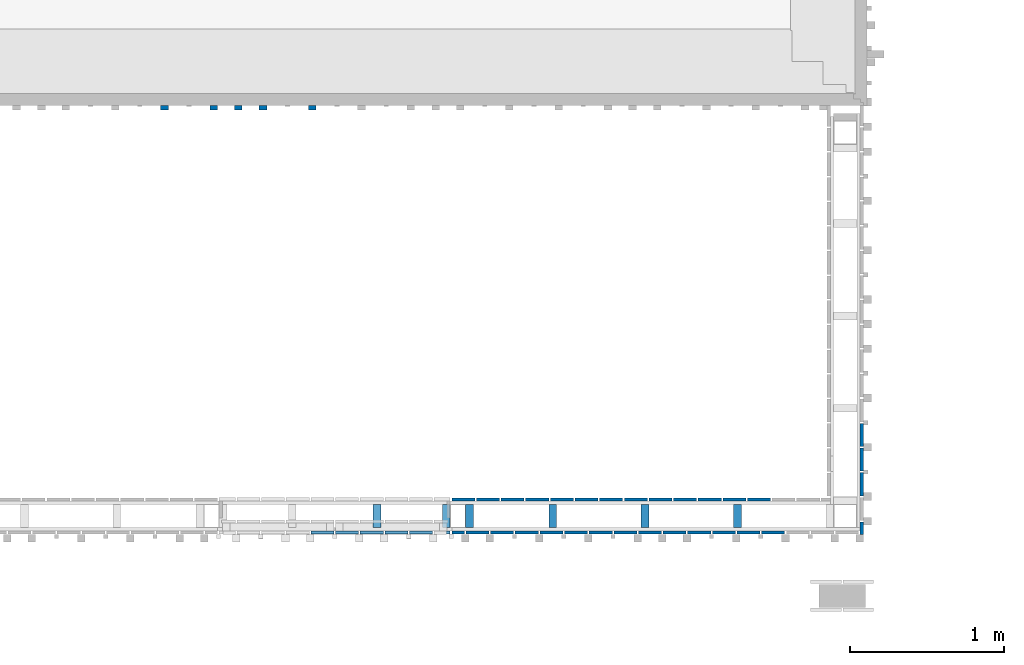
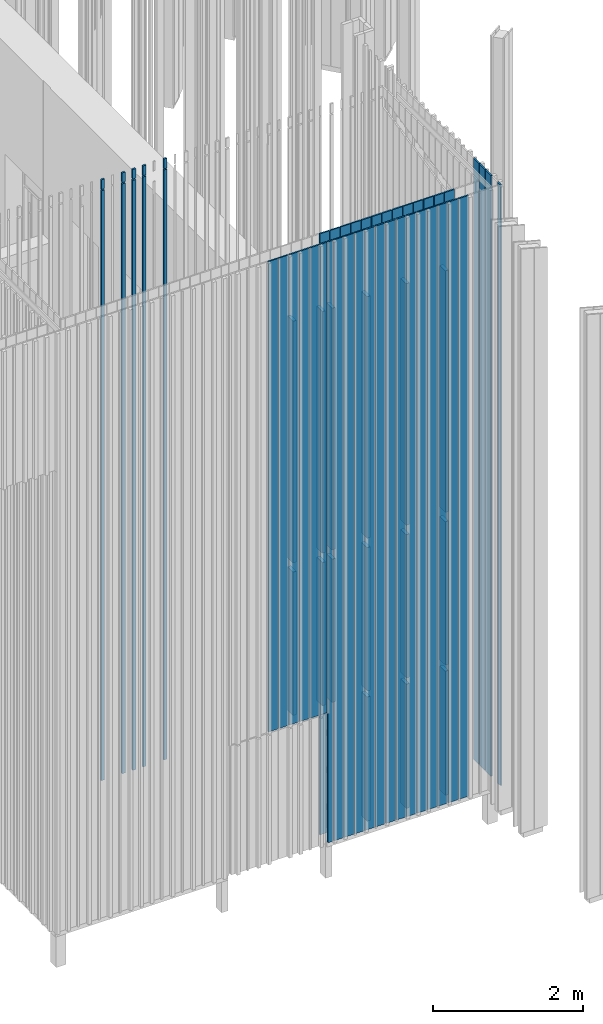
# One storey, part 162 of 390: 58 walls.
"""IFC2X3 building model written with IfcOpenShell, lengths in millimetres."""

from ifc_helpers import new_model, entity, si_unit, converted_unit, derived_unit, money_unit, direction, frame, origin_with_axes, place, context, subcontext, project, spatial, faceted_brep, material, material_list, type_object, element, save


model = new_model("IFC2X3")

# Units and contexts
model_context = context("Model", 3, precision=1e-05, world=origin_with_axes(), true_north=direction((0.0, 1.0)))
body_context = subcontext(model_context, "Body", "Model", "MODEL_VIEW")
ifc_project = project(units=[si_unit("LENGTHUNIT", "METRE", prefix="MILLI"), si_unit("AREAUNIT", "SQUARE_METRE"), si_unit("VOLUMEUNIT", "CUBIC_METRE"), converted_unit("PLANEANGLEUNIT", "DEGREE", entity("IfcPlaneAngleMeasure", 0.0174532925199), si_unit("PLANEANGLEUNIT", "RADIAN"), dimensions=[0, 0, 0, 0, 0, 0, 0]), si_unit("SOLIDANGLEUNIT", "STERADIAN"), money_unit("EUR"), converted_unit("TIMEUNIT", "Year", entity("IfcTimeMeasure", 31556926.0), si_unit("TIMEUNIT", "SECOND"), dimensions=[0, 0, 1, 0, 0, 0, 0]), si_unit("MASSUNIT", "GRAM", prefix="KILO"), si_unit("THERMODYNAMICTEMPERATUREUNIT", "DEGREE_CELSIUS"), si_unit("LUMINOUSINTENSITYUNIT", "LUMEN"), si_unit("ENERGYUNIT", "JOULE", prefix="MEGA"), derived_unit("THERMALCONDUCTANCEUNIT", [(si_unit("POWERUNIT", "WATT"), 1), (si_unit("LENGTHUNIT", "METRE"), -1), (si_unit("THERMODYNAMICTEMPERATUREUNIT", "KELVIN"), -1)]), derived_unit("SPECIFICHEATCAPACITYUNIT", [(si_unit("ENERGYUNIT", "JOULE"), 1), (si_unit("MASSUNIT", "GRAM", prefix="KILO"), -1), (si_unit("THERMODYNAMICTEMPERATUREUNIT", "KELVIN"), -1)]), derived_unit("MASSDENSITYUNIT", [(si_unit("MASSUNIT", "GRAM", prefix="KILO"), 1), (si_unit("VOLUMEUNIT", "CUBIC_METRE"), -1)])], contexts=[model_context])

# Site, building, storey
site_placement = place(None, origin_with_axes())
site = spatial("IfcSite", under=ifc_project, at=site_placement, Name="Site", CompositionType="ELEMENT")
building_placement = place(site_placement, origin_with_axes())
building = spatial("IfcBuilding", under=site, at=building_placement, Name="Building", CompositionType="ELEMENT")
storey_placement = place(building_placement, origin_with_axes())
storey = spatial("IfcBuildingStorey", under=building, at=storey_placement, Name="1 korrus", CompositionType="ELEMENT", Elevation=0.0)

# Walls
ifc_material = material(Name="Site specified")
wall_type = type_object("IfcWallType", Name="Puitfassaadi ribistik", PredefinedType="NOTDEFINED")
for number, where, z_axis, x_axis, name in (
    (1, (138377.000037, 42491.9999724, 100.000000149), (0.0, 0.0, 1.0), (-1.0, 0.0, 0.0), "Site specified"),
    (2, (137417.000037, 42491.9999649, 100.000000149), (0.0, 0.0, 1.0), (-1.0, 0.0, 0.0), "Site specified"),
):
    element("IfcWall", number, at=place(storey_placement, frame(where, z_axis=z_axis, x_axis=x_axis)), inside=storey, type_object=wall_type, material=ifc_material, Name=name, context=body_context, shape_type="Brep", body=[
        faceted_brep([(75.0, -11.0000000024, 9764.99999985), (-75.0, -11.0000000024, 9764.99999985), (-75.0, -11.0000000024, 0.0), (75.0, -11.0000000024, 0.0), (75.0, 11.0000000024, 9764.99999985), (-75.0, 11.0000000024, 9764.99999985), (-75.0, 11.0000000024, 0.0), (75.0, 11.0000000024, 0.0)], [[[0, 1, 2, 3]], [[4, 5, 1, 0]], [[1, 5, 6, 2]], [[7, 3, 2, 6]], [[4, 0, 3, 7]], [[5, 4, 7, 6]]]),
    ])
for number, where, z_axis, x_axis, name in (
    (3, (136890.000037, 42491.9999199, 2220.00000001), (0.0, 0.0, 1.0), (-1.0, 0.0, 0.0), "Site specified"),
    (4, (136250.000037, 42491.9999199, 2220.00000001), (0.0, 0.0, 1.0), (-1.0, 0.0, 0.0), "Site specified"),
):
    element("IfcWall", number, at=place(storey_placement, frame(where, z_axis=z_axis, x_axis=x_axis)), inside=storey, type_object=wall_type, material=ifc_material, Name=name, context=body_context, shape_type="Brep", body=[
        faceted_brep([(75.0, -11.0000000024, 7644.99999999), (-75.0, -11.0000000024, 7644.99999999), (-75.0, -11.0000000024, 0.0), (75.0, -11.0000000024, 0.0), (75.0, 11.0000000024, 7644.99999999), (-75.0, 11.0000000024, 7644.99999999), (-75.0, 11.0000000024, 0.0), (75.0, 11.0000000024, 0.0)], [[[0, 1, 2, 3]], [[4, 5, 1, 0]], [[1, 5, 6, 2]], [[7, 3, 2, 6]], [[4, 0, 3, 7]], [[5, 4, 7, 6]]]),
    ])
wall_1_placement = place(storey_placement, frame((137027.500037, 42491.9999274, 2220.00000001), z_axis=(0.0, 0.0, 1.0), x_axis=(-1.0, 0.0, 0.0)))
element("IfcWall", 5, at=wall_1_placement, inside=storey, type_object=wall_type, material=ifc_material, Name="Site specified", context=body_context, shape_type="Brep", body=[
    faceted_brep([(52.4999999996, -11.0000000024, 7644.99999999), (-52.4999999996, -11.0000000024, 7644.99999999), (-52.4999999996, -11.0000000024, 0.0), (52.4999999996, -11.0000000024, 0.0), (52.4999999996, 11.0000000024, 7644.99999999), (-52.4999999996, 11.0000000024, 7644.99999999), (-52.4999999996, 11.0000000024, 0.0), (52.4999999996, 11.0000000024, 0.0)], [[[0, 1, 2, 3]], [[4, 5, 1, 0]], [[1, 5, 6, 2]], [[7, 3, 2, 6]], [[4, 0, 3, 7]], [[5, 4, 7, 6]]]),
])
for number, where, z_axis, x_axis, name in (
    (6, (136410.000037, 42491.9999199, 2220.00000001), (0.0, 0.0, 1.0), (-1.0, 0.0, 0.0), "Site specified"),
    (7, (136570.000037, 42491.9999199, 2220.00000001), (0.0, 0.0, 1.0), (-1.0, 0.0, 0.0), "Site specified"),
):
    element("IfcWall", number, at=place(storey_placement, frame(where, z_axis=z_axis, x_axis=x_axis)), inside=storey, type_object=wall_type, material=ifc_material, Name=name, context=body_context, shape_type="Brep", body=[
        faceted_brep([(75.0, -11.0000000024, 7644.99999999), (-75.0, -11.0000000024, 7644.99999999), (-75.0, -11.0000000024, 0.0), (75.0, -11.0000000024, 0.0), (75.0, 11.0000000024, 7644.99999999), (-75.0, 11.0000000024, 7644.99999999), (-75.0, 11.0000000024, 0.0), (75.0, 11.0000000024, 0.0)], [[[0, 1, 2, 3]], [[4, 5, 1, 0]], [[1, 5, 6, 2]], [[7, 3, 2, 6]], [[4, 0, 3, 7]], [[5, 4, 7, 6]]]),
    ])
wall_2_placement = place(storey_placement, frame((137257.000037, 42491.9999649, 100.000000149), z_axis=(0.0, 0.0, 1.0), x_axis=(-1.0, 0.0, 0.0)))
element("IfcWall", 8, at=wall_2_placement, inside=storey, type_object=wall_type, material=ifc_material, Name="Site specified", context=body_context, shape_type="Brep", body=[
    faceted_brep([(75.0, -11.0000000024, 9764.99999985), (-75.0, -11.0000000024, 9764.99999985), (-75.0, -11.0000000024, 0.0), (75.0, -11.0000000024, 0.0), (75.0, 11.0000000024, 9764.99999985), (-75.0, 11.0000000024, 9764.99999985), (-75.0, 11.0000000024, 0.0), (75.0, 11.0000000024, 0.0)], [[[0, 1, 2, 3]], [[4, 5, 1, 0]], [[1, 5, 6, 2]], [[7, 3, 2, 6]], [[4, 0, 3, 7]], [[5, 4, 7, 6]]]),
])
wall_3_placement = place(storey_placement, frame((138945.000037, 42599.0000102, 4800.00000001), z_axis=(0.0, 0.0, 1.0), x_axis=(-1.0, 0.0, 0.0)))
element("IfcWall", 9, at=wall_3_placement, inside=storey, type_object=wall_type, material=ifc_material, Name="Site specified", context=body_context, shape_type="Brep", body=[
    faceted_brep([(25.0, -74.9999999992, 3927.99999761), (-25.0, -74.9999999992, 3927.99999761), (-25.0, -74.9999999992, 0.0), (25.0, -74.9999999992, 0.0), (25.0, 74.9999999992, 3927.99999761), (-25.0, 74.9999999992, 3927.99999761), (-25.0, 74.9999999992, 0.0), (25.0, 74.9999999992, 0.0)], [[[0, 1, 2, 3]], [[4, 5, 1, 0]], [[1, 5, 6, 2]], [[7, 3, 2, 6]], [[4, 0, 3, 7]], [[5, 4, 7, 6]]]),
])
wall_4_placement = place(storey_placement, frame((138945.000037, 42599.0000102, 2320.00000001), z_axis=(0.0, 0.0, 1.0), x_axis=(-1.0, 0.0, 0.0)))
element("IfcWall", 10, at=wall_4_placement, inside=storey, type_object=wall_type, material=ifc_material, Name="Site specified", context=body_context, shape_type="Brep", body=[
    faceted_brep([(25.0, -74.9999999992, 2330.0), (-25.0, -74.9999999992, 2330.0), (-25.0, -74.9999999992, 0.0), (25.0, -74.9999999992, 0.0), (25.0, 74.9999999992, 2330.0), (-25.0, 74.9999999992, 2330.0), (-25.0, 74.9999999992, 0.0), (25.0, 74.9999999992, 0.0)], [[[0, 1, 2, 3]], [[4, 5, 1, 0]], [[1, 5, 6, 2]], [[7, 3, 2, 6]], [[4, 0, 3, 7]], [[5, 4, 7, 6]]]),
])
wall_5_placement = place(storey_placement, frame((138945.000037, 42599.0000102, 200.000000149), z_axis=(0.0, 0.0, 1.0), x_axis=(-1.0, 0.0, 0.0)))
element("IfcWall", 11, at=wall_5_placement, inside=storey, type_object=wall_type, material=ifc_material, Name="Site specified", context=body_context, shape_type="Brep", body=[
    faceted_brep([(25.0, -74.9999999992, 2019.99999987), (-25.0, -74.9999999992, 2019.99999987), (-25.0, -74.9999999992, 0.0), (25.0, -74.9999999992, 0.0), (25.0, 74.9999999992, 2019.99999987), (-25.0, 74.9999999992, 2019.99999987), (-25.0, 74.9999999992, 0.0), (25.0, 74.9999999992, 0.0)], [[[0, 1, 2, 3]], [[4, 5, 1, 0]], [[1, 5, 6, 2]], [[7, 3, 2, 6]], [[4, 0, 3, 7]], [[5, 4, 7, 6]]]),
])
wall_6_placement = place(storey_placement, frame((138345.000037, 42599.0000102, 4800.00000001), z_axis=(0.0, 0.0, 1.0), x_axis=(-1.0, 0.0, 0.0)))
element("IfcWall", 12, at=wall_6_placement, inside=storey, type_object=wall_type, material=ifc_material, Name="Site specified", context=body_context, shape_type="Brep", body=[
    faceted_brep([(25.0, -74.9999999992, 3927.99999761), (-25.0, -74.9999999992, 3927.99999761), (-25.0, -74.9999999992, 0.0), (25.0, -74.9999999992, 0.0), (25.0, 74.9999999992, 3927.99999761), (-25.0, 74.9999999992, 3927.99999761), (-25.0, 74.9999999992, 0.0), (25.0, 74.9999999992, 0.0)], [[[0, 1, 2, 3]], [[4, 5, 1, 0]], [[1, 5, 6, 2]], [[7, 3, 2, 6]], [[4, 0, 3, 7]], [[5, 4, 7, 6]]]),
])
for number, where, z_axis, x_axis, name in (
    (13, (138345.000037, 42599.0000102, 2320.00000001), (0.0, 0.0, 1.0), (-1.0, 0.0, 0.0), "Site specified"),
    (14, (137205.000037, 42599.0000102, 2320.00000001), (0.0, 0.0, 1.0), (-1.0, 0.0, 0.0), "Site specified"),
):
    element("IfcWall", number, at=place(storey_placement, frame(where, z_axis=z_axis, x_axis=x_axis)), inside=storey, type_object=wall_type, material=ifc_material, Name=name, context=body_context, shape_type="Brep", body=[
        faceted_brep([(25.0, -74.9999999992, 2330.0), (-25.0, -74.9999999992, 2330.0), (-25.0, -74.9999999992, 0.0), (25.0, -74.9999999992, 0.0), (25.0, 74.9999999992, 2330.0), (-25.0, 74.9999999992, 2330.0), (-25.0, 74.9999999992, 0.0), (25.0, 74.9999999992, 0.0)], [[[0, 1, 2, 3]], [[4, 5, 1, 0]], [[1, 5, 6, 2]], [[7, 3, 2, 6]], [[4, 0, 3, 7]], [[5, 4, 7, 6]]]),
    ])
wall_7_placement = place(storey_placement, frame((138345.000037, 42599.0000102, 200.000000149), z_axis=(0.0, 0.0, 1.0), x_axis=(-1.0, 0.0, 0.0)))
element("IfcWall", 15, at=wall_7_placement, inside=storey, type_object=wall_type, material=ifc_material, Name="Site specified", context=body_context, shape_type="Brep", body=[
    faceted_brep([(25.0, -74.9999999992, 2019.99999987), (-25.0, -74.9999999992, 2019.99999987), (-25.0, -74.9999999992, 0.0), (25.0, -74.9999999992, 0.0), (25.0, 74.9999999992, 2019.99999987), (-25.0, 74.9999999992, 2019.99999987), (-25.0, 74.9999999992, 0.0), (25.0, 74.9999999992, 0.0)], [[[0, 1, 2, 3]], [[4, 5, 1, 0]], [[1, 5, 6, 2]], [[7, 3, 2, 6]], [[4, 0, 3, 7]], [[5, 4, 7, 6]]]),
])
wall_8_placement = place(storey_placement, frame((137745.000037, 42599.0000102, 4800.00000001), z_axis=(0.0, 0.0, 1.0), x_axis=(-1.0, 0.0, 0.0)))
element("IfcWall", 16, at=wall_8_placement, inside=storey, type_object=wall_type, material=ifc_material, Name="Site specified", context=body_context, shape_type="Brep", body=[
    faceted_brep([(25.0, -74.9999999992, 3927.99999761), (-25.0, -74.9999999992, 3927.99999761), (-25.0, -74.9999999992, 0.0), (25.0, -74.9999999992, 0.0), (25.0, 74.9999999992, 3927.99999761), (-25.0, 74.9999999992, 3927.99999761), (-25.0, 74.9999999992, 0.0), (25.0, 74.9999999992, 0.0)], [[[0, 1, 2, 3]], [[4, 5, 1, 0]], [[1, 5, 6, 2]], [[7, 3, 2, 6]], [[4, 0, 3, 7]], [[5, 4, 7, 6]]]),
])
for number, where, z_axis, x_axis, name in (
    (17, (138697.000037, 42491.9999799, 100.000000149), (0.0, 0.0, 1.0), (-1.0, 0.0, 0.0), "Site specified"),
    (18, (138217.000037, 42491.9999724, 100.000000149), (0.0, 0.0, 1.0), (-1.0, 0.0, 0.0), "Site specified"),
):
    element("IfcWall", number, at=place(storey_placement, frame(where, z_axis=z_axis, x_axis=x_axis)), inside=storey, type_object=wall_type, material=ifc_material, Name=name, context=body_context, shape_type="Brep", body=[
        faceted_brep([(75.0, -11.0000000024, 9764.99999985), (-75.0, -11.0000000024, 9764.99999985), (-75.0, -11.0000000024, 0.0), (75.0, -11.0000000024, 0.0), (75.0, 11.0000000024, 9764.99999985), (-75.0, 11.0000000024, 9764.99999985), (-75.0, 11.0000000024, 0.0), (75.0, 11.0000000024, 0.0)], [[[0, 1, 2, 3]], [[4, 5, 1, 0]], [[1, 5, 6, 2]], [[7, 3, 2, 6]], [[4, 0, 3, 7]], [[5, 4, 7, 6]]]),
    ])
wall_9_placement = place(storey_placement, frame((137745.000037, 42599.0000102, 2320.00000001), z_axis=(0.0, 0.0, 1.0), x_axis=(-1.0, 0.0, 0.0)))
element("IfcWall", 19, at=wall_9_placement, inside=storey, type_object=wall_type, material=ifc_material, Name="Site specified", context=body_context, shape_type="Brep", body=[
    faceted_brep([(25.0, -74.9999999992, 2330.0), (-25.0, -74.9999999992, 2330.0), (-25.0, -74.9999999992, 0.0), (25.0, -74.9999999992, 0.0), (25.0, 74.9999999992, 2330.0), (-25.0, 74.9999999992, 2330.0), (-25.0, 74.9999999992, 0.0), (25.0, 74.9999999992, 0.0)], [[[0, 1, 2, 3]], [[4, 5, 1, 0]], [[1, 5, 6, 2]], [[7, 3, 2, 6]], [[4, 0, 3, 7]], [[5, 4, 7, 6]]]),
])
wall_10_placement = place(storey_placement, frame((138057.000037, 42491.9999649, 100.000000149), z_axis=(0.0, 0.0, 1.0), x_axis=(-1.0, 0.0, 0.0)))
element("IfcWall", 20, at=wall_10_placement, inside=storey, type_object=wall_type, material=ifc_material, Name="Site specified", context=body_context, shape_type="Brep", body=[
    faceted_brep([(75.0, -11.0000000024, 9764.99999985), (-75.0, -11.0000000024, 9764.99999985), (-75.0, -11.0000000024, 0.0), (75.0, -11.0000000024, 0.0), (75.0, 11.0000000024, 9764.99999985), (-75.0, 11.0000000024, 9764.99999985), (-75.0, 11.0000000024, 0.0), (75.0, 11.0000000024, 0.0)], [[[0, 1, 2, 3]], [[4, 5, 1, 0]], [[1, 5, 6, 2]], [[7, 3, 2, 6]], [[4, 0, 3, 7]], [[5, 4, 7, 6]]]),
])
ifc_material_list = material_list([ifc_material, ifc_material])
wall_11_placement = place(storey_placement, frame((135544.000037, 45260.9998643, 100.000000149), z_axis=(0.0, 0.0, 1.0), x_axis=(-1.0, 0.0, 0.0)))
element("IfcWall", 21, at=wall_11_placement, inside=storey, type_object=wall_type, material=ifc_material_list, Name="Site specified", context=body_context, shape_type="Brep", body=[
    faceted_brep([(25.0, -2.0000477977, -3.12924797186e-06), (25.0, -2.00014411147, 9591.91725957), (-25.0, -2.00014411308, 9591.91725957), (-25.0, -2.00004779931, -3.12924797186e-06), (25.0, 25.0, 0.0), (25.0, 25.0, 9586.17820178), (-25.0, 25.0, 9586.17820177), (-25.0, 25.0, 0.0)], [[[0, 1, 2, 3]], [[4, 5, 1, 0]], [[5, 6, 2, 1]], [[3, 2, 6, 7]], [[0, 3, 7, 4]], [[7, 6, 5, 4]]]),
    faceted_brep([(-25.0, 25.0, 9764.99999985), (-25.0, 25.0, 9607.64735427), (-25.0, -2.00014411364, 9613.38641206), (-25.0, -2.00014411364, 9764.99999985), (25.0, 25.0, 9764.99999985), (25.0, 25.0, 9607.64735427), (25.0, -2.00014411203, 9613.38641206), (25.0, -2.00014411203, 9764.99999985)], [[[0, 1, 2, 3]], [[4, 5, 1, 0]], [[5, 6, 2, 1]], [[3, 2, 6, 7]], [[3, 7, 4, 0]], [[7, 6, 5, 4]]]),
])
wall_12_placement = place(storey_placement, frame((135864.000037, 45260.9999142, 100.000000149), z_axis=(0.0, 0.0, 1.0), x_axis=(-1.0, 0.0, 0.0)))
element("IfcWall", 22, at=wall_12_placement, inside=storey, type_object=wall_type, material=ifc_material_list, Name="Site specified", context=body_context, shape_type="Brep", body=[
    faceted_brep([(25.0, -1.9999978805, -3.12924797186e-06), (25.0, -2.00009419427, 9591.91725957), (-25.0, -2.00009419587, 9591.91725957), (-25.0, -1.99999788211, -3.12924797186e-06), (25.0, 25.0, 0.0), (25.0, 25.0, 9586.17821239), (-25.0, 25.0, 9586.17821238), (-25.0, 25.0, 0.0)], [[[0, 1, 2, 3]], [[4, 5, 1, 0]], [[5, 6, 2, 1]], [[3, 2, 6, 7]], [[0, 3, 7, 4]], [[7, 6, 5, 4]]]),
    faceted_brep([(-25.0, 25.0, 9764.99999985), (-25.0, 25.0, 9607.64736488), (-25.0, -2.00009419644, 9613.38641206), (-25.0, -2.00009419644, 9764.99999985), (25.0, 25.0, 9764.99999985), (25.0, 25.0, 9607.64736488), (25.0, -2.00009419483, 9613.38641206), (25.0, -2.00009419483, 9764.99999985)], [[[0, 1, 2, 3]], [[4, 5, 1, 0]], [[5, 6, 2, 1]], [[3, 2, 6, 7]], [[3, 7, 4, 0]], [[7, 6, 5, 4]]]),
])
wall_13_placement = place(storey_placement, frame((135224.000037, 45260.9998568, 100.000000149), z_axis=(0.0, 0.0, 1.0), x_axis=(-1.0, 0.0, 0.0)))
element("IfcWall", 23, at=wall_13_placement, inside=storey, type_object=wall_type, material=ifc_material_list, Name="Site specified", context=body_context, shape_type="Brep", body=[
    faceted_brep([(25.0, -2.00005529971, -3.12924797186e-06), (25.0, -2.00015161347, 9591.91725957), (-25.0, -2.00015161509, 9591.91725957), (-25.0, -2.00005530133, -3.12924797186e-06), (25.0, 25.0, 0.0), (25.0, 25.0, 9586.17820018), (-25.0, 25.0, 9586.17820018), (-25.0, 25.0, 0.0)], [[[0, 1, 2, 3]], [[4, 5, 1, 0]], [[5, 6, 2, 1]], [[3, 2, 6, 7]], [[0, 3, 7, 4]], [[7, 6, 5, 4]]]),
    faceted_brep([(-25.0, 25.0, 9764.99999985), (-25.0, 25.0, 9607.64735267), (-25.0, -2.00015161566, 9613.38641206), (-25.0, -2.00015161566, 9764.99999985), (25.0, 25.0, 9764.99999985), (25.0, 25.0, 9607.64735267), (25.0, -2.00015161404, 9613.38641206), (25.0, -2.00015161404, 9764.99999985)], [[[0, 1, 2, 3]], [[4, 5, 1, 0]], [[5, 6, 2, 1]], [[3, 2, 6, 7]], [[3, 7, 4, 0]], [[7, 6, 5, 4]]]),
])
wall_14_placement = place(storey_placement, frame((135704.000037, 45260.9999142, 100.000000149), z_axis=(0.0, 0.0, 1.0), x_axis=(-1.0, 0.0, 0.0)))
element("IfcWall", 24, at=wall_14_placement, inside=storey, type_object=wall_type, material=ifc_material_list, Name="Site specified", context=body_context, shape_type="Brep", body=[
    faceted_brep([(25.0, -1.9999978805, -3.12924797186e-06), (25.0, -2.00009419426, 9591.91725957), (-25.0, -2.00009419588, 9591.91725957), (-25.0, -1.99999788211, -3.12924797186e-06), (25.0, 25.0, 0.0), (25.0, 25.0, 9586.17821239), (-25.0, 25.0, 9586.17821238), (-25.0, 25.0, 0.0)], [[[0, 1, 2, 3]], [[4, 5, 1, 0]], [[5, 6, 2, 1]], [[3, 2, 6, 7]], [[0, 3, 7, 4]], [[7, 6, 5, 4]]]),
    faceted_brep([(-25.0, 25.0, 9764.99999985), (-25.0, 25.0, 9607.64736488), (-25.0, -2.00009419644, 9613.38641206), (-25.0, -2.00009419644, 9764.99999985), (25.0, 25.0, 9764.99999985), (25.0, 25.0, 9607.64736488), (25.0, -2.00009419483, 9613.38641206), (25.0, -2.00009419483, 9764.99999985)], [[[0, 1, 2, 3]], [[4, 5, 1, 0]], [[5, 6, 2, 1]], [[3, 2, 6, 7]], [[3, 7, 4, 0]], [[7, 6, 5, 4]]]),
])
wall_15_placement = place(storey_placement, frame((136184.000037, 45260.9999142, 100.000000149), z_axis=(0.0, 0.0, 1.0), x_axis=(-1.0, 0.0, 0.0)))
element("IfcWall", 25, at=wall_15_placement, inside=storey, type_object=wall_type, material=ifc_material_list, Name="Site specified", context=body_context, shape_type="Brep", body=[
    faceted_brep([(25.0, -1.99999788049, -3.12924797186e-06), (25.0, -2.00009419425, 9591.91725957), (-25.0, -2.00009419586, 9591.91725957), (-25.0, -1.9999978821, -3.12924797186e-06), (25.0, 25.0, 0.0), (25.0, 25.0, 9586.17821239), (-25.0, 25.0, 9586.17821238), (-25.0, 25.0, 0.0)], [[[0, 1, 2, 3]], [[4, 5, 1, 0]], [[5, 6, 2, 1]], [[3, 2, 6, 7]], [[0, 3, 7, 4]], [[7, 6, 5, 4]]]),
    faceted_brep([(-25.0, 25.0, 9764.99999985), (-25.0, 25.0, 9607.64736488), (-25.0, -2.00009419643, 9613.38641206), (-25.0, -2.00009419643, 9764.99999985), (25.0, 25.0, 9764.99999985), (25.0, 25.0, 9607.64736488), (25.0, -2.00009419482, 9613.38641206), (25.0, -2.00009419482, 9764.99999985)], [[[0, 1, 2, 3]], [[4, 5, 1, 0]], [[5, 6, 2, 1]], [[3, 2, 6, 7]], [[3, 7, 4, 0]], [[7, 6, 5, 4]]]),
])
wall_16_placement = place(storey_placement, frame((139752.000037, 42519.9999699, 100.000000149), z_axis=(0.0, 0.0, 1.0), x_axis=(0.0, 1.0, 0.0)))
element("IfcWall", 26, at=wall_16_placement, inside=storey, type_object=wall_type, material=ifc_material, Name="Site specified", context=body_context, shape_type="Brep", body=[
    faceted_brep([(40.000039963, -11.0000000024, 9764.99999985), (-40.000039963, -11.0000000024, 9764.99999985), (-40.000039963, -11.0000000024, 0.0), (40.000039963, -11.0000000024, 0.0), (40.000039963, 11.0000000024, 9764.99999985), (-40.000039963, 11.0000000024, 9764.99999985), (-40.000039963, 11.0000000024, 0.0), (40.000039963, 11.0000000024, 0.0)], [[[0, 1, 2, 3]], [[4, 5, 1, 0]], [[1, 5, 6, 2]], [[7, 3, 2, 6]], [[4, 0, 3, 7]], [[5, 4, 7, 6]]]),
])
for number, where, z_axis, x_axis, name in (
    (27, (139752.000037, 43125.0000099, 100.000000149), (0.0, 0.0, 1.0), (0.0, 1.0, 0.0), "Site specified"),
    (28, (139752.000037, 42965.0000099, 100.000000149), (0.0, 0.0, 1.0), (0.0, 1.0, 0.0), "Site specified"),
    (29, (139752.000037, 42805.0000099, 100.000000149), (0.0, 0.0, 1.0), (0.0, 1.0, 0.0), "Site specified"),
):
    element("IfcWall", number, at=place(storey_placement, frame(where, z_axis=z_axis, x_axis=x_axis)), inside=storey, type_object=wall_type, material=ifc_material, Name=name, context=body_context, shape_type="Brep", body=[
        faceted_brep([(75.0, -11.0000000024, 9764.99999985), (-75.0, -11.0000000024, 9764.99999985), (-75.0, -11.0000000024, 0.0), (75.0, -11.0000000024, 0.0), (75.0, 11.0000000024, 9764.99999985), (-75.0, 11.0000000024, 9764.99999985), (-75.0, 11.0000000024, 0.0), (75.0, 11.0000000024, 0.0)], [[[0, 1, 2, 3]], [[4, 5, 1, 0]], [[1, 5, 6, 2]], [[7, 3, 2, 6]], [[4, 0, 3, 7]], [[5, 4, 7, 6]]]),
    ])
wall_17_placement = place(storey_placement, frame((137055.000037, 42599.0000102, 2320.00000001), z_axis=(0.0, 0.0, 1.0), x_axis=(-1.0, 0.0, 0.0)))
element("IfcWall", 30, at=wall_17_placement, inside=storey, type_object=wall_type, material=ifc_material, Name="Site specified", context=body_context, shape_type="Brep", body=[
    faceted_brep([(25.0, -74.9999999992, 2330.0), (-25.0, -74.9999999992, 2330.0), (-25.0, -74.9999999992, 0.0), (25.0, -74.9999999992, 0.0), (25.0, 74.9999999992, 2330.0), (-25.0, 74.9999999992, 2330.0), (-25.0, 74.9999999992, 0.0), (25.0, 74.9999999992, 0.0)], [[[0, 1, 2, 3]], [[4, 5, 1, 0]], [[1, 5, 6, 2]], [[7, 3, 2, 6]], [[4, 0, 3, 7]], [[5, 4, 7, 6]]]),
])
wall_18_placement = place(storey_placement, frame((137055.000037, 42599.0000102, 4800.00000001), z_axis=(0.0, 0.0, 1.0), x_axis=(-1.0, 0.0, 0.0)))
element("IfcWall", 31, at=wall_18_placement, inside=storey, type_object=wall_type, material=ifc_material, Name="Site specified", context=body_context, shape_type="Brep", body=[
    faceted_brep([(25.0, -74.9999999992, 3927.99999761), (-25.0, -74.9999999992, 3927.99999761), (-25.0, -74.9999999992, 0.0), (25.0, -74.9999999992, 0.0), (25.0, 74.9999999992, 3927.99999761), (-25.0, 74.9999999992, 3927.99999761), (-25.0, 74.9999999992, 0.0), (25.0, 74.9999999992, 0.0)], [[[0, 1, 2, 3]], [[4, 5, 1, 0]], [[1, 5, 6, 2]], [[7, 3, 2, 6]], [[4, 0, 3, 7]], [[5, 4, 7, 6]]]),
])
wall_19_placement = place(storey_placement, frame((137737.000037, 42491.9999649, 100.000000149), z_axis=(0.0, 0.0, 1.0), x_axis=(-1.0, 0.0, 0.0)))
element("IfcWall", 32, at=wall_19_placement, inside=storey, type_object=wall_type, material=ifc_material, Name="Site specified", context=body_context, shape_type="Brep", body=[
    faceted_brep([(75.0, -11.0000000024, 9764.99999985), (-75.0, -11.0000000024, 9764.99999985), (-75.0, -11.0000000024, 0.0), (75.0, -11.0000000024, 0.0), (75.0, 11.0000000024, 9764.99999985), (-75.0, 11.0000000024, 9764.99999985), (-75.0, 11.0000000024, 0.0), (75.0, 11.0000000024, 0.0)], [[[0, 1, 2, 3]], [[4, 5, 1, 0]], [[1, 5, 6, 2]], [[7, 3, 2, 6]], [[4, 0, 3, 7]], [[5, 4, 7, 6]]]),
])
wall_20_placement = place(storey_placement, frame((136730.000037, 42491.9999199, 2220.00000001), z_axis=(0.0, 0.0, 1.0), x_axis=(-1.0, 0.0, 0.0)))
element("IfcWall", 33, at=wall_20_placement, inside=storey, type_object=wall_type, material=ifc_material, Name="Site specified", context=body_context, shape_type="Brep", body=[
    faceted_brep([(75.0, -11.0000000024, 7644.99999999), (-75.0, -11.0000000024, 7644.99999999), (-75.0, -11.0000000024, 0.0), (75.0, -11.0000000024, 0.0), (75.0, 11.0000000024, 7644.99999999), (-75.0, 11.0000000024, 7644.99999999), (-75.0, 11.0000000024, 0.0), (75.0, 11.0000000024, 0.0)], [[[0, 1, 2, 3]], [[4, 5, 1, 0]], [[1, 5, 6, 2]], [[7, 3, 2, 6]], [[4, 0, 3, 7]], [[5, 4, 7, 6]]]),
])
for number, where, z_axis, x_axis, name in (
    (34, (137165.000037, 42706.0000099, 100.000000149), (0.0, 0.0, 1.0), (-1.0, 0.0, 0.0), "Site specified"),
    (35, (137325.000037, 42706.0000102, 100.000000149), (0.0, 0.0, 1.0), (-1.0, 0.0, 0.0), "Site specified"),
    (36, (137485.000037, 42706.0000102, 100.000000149), (0.0, 0.0, 1.0), (-1.0, 0.0, 0.0), "Site specified"),
    (37, (137645.000037, 42706.0000102, 100.000000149), (0.0, 0.0, 1.0), (-1.0, 0.0, 0.0), "Site specified"),
    (38, (137805.000037, 42706.0000102, 100.000000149), (0.0, 0.0, 1.0), (-1.0, 0.0, 0.0), "Site specified"),
    (39, (137965.000037, 42706.0000102, 100.000000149), (0.0, 0.0, 1.0), (-1.0, 0.0, 0.0), "Site specified"),
    (40, (138125.000037, 42706.0000102, 100.000000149), (0.0, 0.0, 1.0), (-1.0, 0.0, 0.0), "Site specified"),
    (41, (138285.000037, 42706.0000102, 100.000000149), (0.0, 0.0, 1.0), (-1.0, 0.0, 0.0), "Site specified"),
    (42, (138445.000037, 42706.0000102, 100.000000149), (0.0, 0.0, 1.0), (-1.0, 0.0, 0.0), "Site specified"),
    (43, (138605.000037, 42706.0000102, 100.000000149), (0.0, 0.0, 1.0), (-1.0, 0.0, 0.0), "Site specified"),
    (44, (138765.000037, 42706.0000102, 100.000000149), (0.0, 0.0, 1.0), (-1.0, 0.0, 0.0), "Site specified"),
    (45, (138925.000037, 42706.0000102, 100.000000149), (0.0, 0.0, 1.0), (-1.0, 0.0, 0.0), "Site specified"),
    (46, (139085.000037, 42706.0000102, 100.000000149), (0.0, 0.0, 1.0), (-1.0, 0.0, 0.0), "Site specified"),
    (47, (137577.000037, 42491.9999649, 100.000000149), (0.0, 0.0, 1.0), (-1.0, 0.0, 0.0), "Site specified"),
):
    element("IfcWall", number, at=place(storey_placement, frame(where, z_axis=z_axis, x_axis=x_axis)), inside=storey, type_object=wall_type, material=ifc_material, Name=name, context=body_context, shape_type="Brep", body=[
        faceted_brep([(75.0, -11.0000000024, 9764.99999985), (-75.0, -11.0000000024, 9764.99999985), (-75.0, -11.0000000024, 0.0), (75.0, -11.0000000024, 0.0), (75.0, 11.0000000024, 9764.99999985), (-75.0, 11.0000000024, 9764.99999985), (-75.0, 11.0000000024, 0.0), (75.0, 11.0000000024, 0.0)], [[[0, 1, 2, 3]], [[4, 5, 1, 0]], [[1, 5, 6, 2]], [[7, 3, 2, 6]], [[4, 0, 3, 7]], [[5, 4, 7, 6]]]),
    ])
wall_21_placement = place(storey_placement, frame((137132.000037, 42491.9999649, 100.000000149), z_axis=(0.0, 0.0, 1.0), x_axis=(-1.0, 0.0, 0.0)))
element("IfcWall", 48, at=wall_21_placement, inside=storey, type_object=wall_type, material=ifc_material, Name="Site specified", context=body_context, shape_type="Brep", body=[
    faceted_brep([(40.0, -11.0000000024, 9764.99999985), (-40.0, -11.0000000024, 9764.99999985), (-40.0, -11.0000000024, 0.0), (40.0, -11.0000000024, 0.0), (40.0, 11.0000000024, 9764.99999985), (-40.0, 11.0000000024, 9764.99999985), (-40.0, 11.0000000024, 0.0), (40.0, 11.0000000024, 0.0)], [[[0, 1, 2, 3]], [[4, 5, 1, 0]], [[1, 5, 6, 2]], [[7, 3, 2, 6]], [[4, 0, 3, 7]], [[5, 4, 7, 6]]]),
])
wall_22_placement = place(storey_placement, frame((137897.000037, 42491.9999649, 100.000000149), z_axis=(0.0, 0.0, 1.0), x_axis=(-1.0, 0.0, 0.0)))
element("IfcWall", 49, at=wall_22_placement, inside=storey, type_object=wall_type, material=ifc_material, Name="Site specified", context=body_context, shape_type="Brep", body=[
    faceted_brep([(75.0, -11.0000000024, 9764.99999985), (-75.0, -11.0000000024, 9764.99999985), (-75.0, -11.0000000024, 0.0), (75.0, -11.0000000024, 0.0), (75.0, 11.0000000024, 9764.99999985), (-75.0, 11.0000000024, 9764.99999985), (-75.0, 11.0000000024, 0.0), (75.0, 11.0000000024, 0.0)], [[[0, 1, 2, 3]], [[4, 5, 1, 0]], [[1, 5, 6, 2]], [[7, 3, 2, 6]], [[4, 0, 3, 7]], [[5, 4, 7, 6]]]),
])
wall_23_placement = place(storey_placement, frame((137205.000037, 42599.0000102, 4800.00000001), z_axis=(0.0, 0.0, 1.0), x_axis=(-1.0, 0.0, 0.0)))
element("IfcWall", 50, at=wall_23_placement, inside=storey, type_object=wall_type, material=ifc_material, Name="Site specified", context=body_context, shape_type="Brep", body=[
    faceted_brep([(25.0, -74.9999999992, 3927.99999761), (-25.0, -74.9999999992, 3927.99999761), (-25.0, -74.9999999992, 0.0), (25.0, -74.9999999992, 0.0), (25.0, 74.9999999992, 3927.99999761), (-25.0, 74.9999999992, 3927.99999761), (-25.0, 74.9999999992, 0.0), (25.0, 74.9999999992, 0.0)], [[[0, 1, 2, 3]], [[4, 5, 1, 0]], [[1, 5, 6, 2]], [[7, 3, 2, 6]], [[4, 0, 3, 7]], [[5, 4, 7, 6]]]),
])
wall_24_placement = place(storey_placement, frame((137205.000037, 42599.0000102, 200.000000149), z_axis=(0.0, 0.0, 1.0), x_axis=(-1.0, 0.0, 0.0)))
element("IfcWall", 51, at=wall_24_placement, inside=storey, type_object=wall_type, material=ifc_material, Name="Site specified", context=body_context, shape_type="Brep", body=[
    faceted_brep([(25.0, -74.9999999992, 2019.99999987), (-25.0, -74.9999999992, 2019.99999987), (-25.0, -74.9999999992, 0.0), (25.0, -74.9999999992, 0.0), (25.0, 74.9999999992, 2019.99999987), (-25.0, 74.9999999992, 2019.99999987), (-25.0, 74.9999999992, 0.0), (25.0, 74.9999999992, 0.0)], [[[0, 1, 2, 3]], [[4, 5, 1, 0]], [[1, 5, 6, 2]], [[7, 3, 2, 6]], [[4, 0, 3, 7]], [[5, 4, 7, 6]]]),
])
wall_25_placement = place(storey_placement, frame((138537.000037, 42491.9999799, 100.000000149), z_axis=(0.0, 0.0, 1.0), x_axis=(-1.0, 0.0, 0.0)))
element("IfcWall", 52, at=wall_25_placement, inside=storey, type_object=wall_type, material=ifc_material, Name="Site specified", context=body_context, shape_type="Brep", body=[
    faceted_brep([(75.0, -11.0000000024, 9764.99999985), (-75.0, -11.0000000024, 9764.99999985), (-75.0, -11.0000000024, 0.0), (75.0, -11.0000000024, 0.0), (75.0, 11.0000000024, 9764.99999985), (-75.0, 11.0000000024, 9764.99999985), (-75.0, 11.0000000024, 0.0), (75.0, 11.0000000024, 0.0)], [[[0, 1, 2, 3]], [[4, 5, 1, 0]], [[1, 5, 6, 2]], [[7, 3, 2, 6]], [[4, 0, 3, 7]], [[5, 4, 7, 6]]]),
])
wall_26_placement = place(storey_placement, frame((137745.000037, 42599.0000102, 200.000000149), z_axis=(0.0, 0.0, 1.0), x_axis=(-1.0, 0.0, 0.0)))
element("IfcWall", 53, at=wall_26_placement, inside=storey, type_object=wall_type, material=ifc_material, Name="Site specified", context=body_context, shape_type="Brep", body=[
    faceted_brep([(25.0, -74.9999999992, 2019.99999987), (-25.0, -74.9999999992, 2019.99999987), (-25.0, -74.9999999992, 0.0), (25.0, -74.9999999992, 0.0), (25.0, 74.9999999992, 2019.99999987), (-25.0, 74.9999999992, 2019.99999987), (-25.0, 74.9999999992, 0.0), (25.0, 74.9999999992, 0.0)], [[[0, 1, 2, 3]], [[4, 5, 1, 0]], [[1, 5, 6, 2]], [[7, 3, 2, 6]], [[4, 0, 3, 7]], [[5, 4, 7, 6]]]),
])
for number, where, z_axis, x_axis, name in (
    (54, (138857.000037, 42491.9999874, 100.000000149), (0.0, 0.0, 1.0), (-1.0, 0.0, 0.0), "Site specified"),
    (55, (139017.000037, 42491.9999874, 100.000000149), (0.0, 0.0, 1.0), (-1.0, 0.0, 0.0), "Site specified"),
    (56, (139177.000037, 42491.9999949, 100.000000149), (0.0, 0.0, 1.0), (-1.0, 0.0, 0.0), "Site specified"),
):
    element("IfcWall", number, at=place(storey_placement, frame(where, z_axis=z_axis, x_axis=x_axis)), inside=storey, type_object=wall_type, material=ifc_material, Name=name, context=body_context, shape_type="Brep", body=[
        faceted_brep([(75.0, -11.0000000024, 9764.99999985), (-75.0, -11.0000000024, 9764.99999985), (-75.0, -11.0000000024, 0.0), (75.0, -11.0000000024, 0.0), (75.0, 11.0000000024, 9764.99999985), (-75.0, 11.0000000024, 9764.99999985), (-75.0, 11.0000000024, 0.0), (75.0, 11.0000000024, 0.0)], [[[0, 1, 2, 3]], [[4, 5, 1, 0]], [[1, 5, 6, 2]], [[7, 3, 2, 6]], [[4, 0, 3, 7]], [[5, 4, 7, 6]]]),
    ])
wall_27_placement = place(storey_placement, frame((136605.000037, 42599.0000103, 2320.00000001), z_axis=(0.0, 0.0, 1.0), x_axis=(-1.0, 0.0, 0.0)))
element("IfcWall", 57, at=wall_27_placement, inside=storey, type_object=wall_type, material=ifc_material, Name="Site specified", context=body_context, shape_type="Brep", body=[
    faceted_brep([(25.0, -74.9999999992, 2330.0), (-25.0, -74.9999999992, 2330.0), (-25.0, -74.9999999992, 0.0), (25.0, -74.9999999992, 0.0), (25.0, 74.9999999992, 2330.0), (-25.0, 74.9999999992, 2330.0), (-25.0, 74.9999999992, 0.0), (25.0, 74.9999999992, 0.0)], [[[0, 1, 2, 3]], [[4, 5, 1, 0]], [[1, 5, 6, 2]], [[7, 3, 2, 6]], [[4, 0, 3, 7]], [[5, 4, 7, 6]]]),
])
wall_28_placement = place(storey_placement, frame((136605.000037, 42599.0000103, 4800.00000001), z_axis=(0.0, 0.0, 1.0), x_axis=(-1.0, 0.0, 0.0)))
element("IfcWall", 58, at=wall_28_placement, inside=storey, type_object=wall_type, material=ifc_material, Name="Site specified", context=body_context, shape_type="Brep", body=[
    faceted_brep([(25.0, -74.9999999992, 3927.99999761), (-25.0, -74.9999999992, 3927.99999761), (-25.0, -74.9999999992, 0.0), (25.0, -74.9999999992, 0.0), (25.0, 74.9999999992, 3927.99999761), (-25.0, 74.9999999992, 3927.99999761), (-25.0, 74.9999999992, 0.0), (25.0, 74.9999999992, 0.0)], [[[0, 1, 2, 3]], [[4, 5, 1, 0]], [[1, 5, 6, 2]], [[7, 3, 2, 6]], [[4, 0, 3, 7]], [[5, 4, 7, 6]]]),
])

save(model, "model.ifc")
